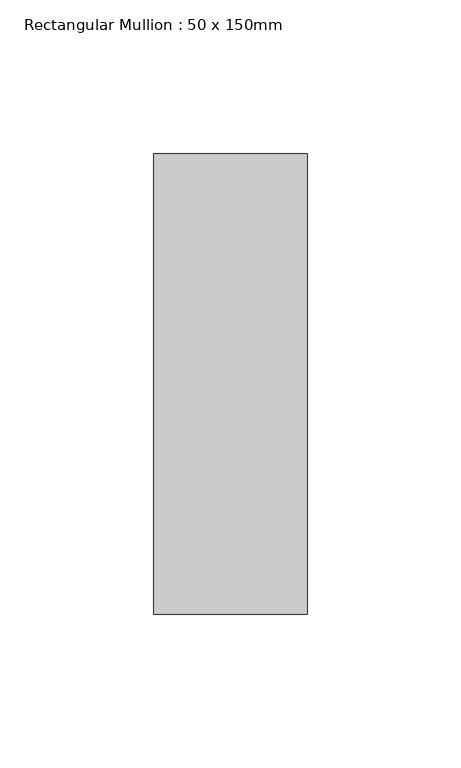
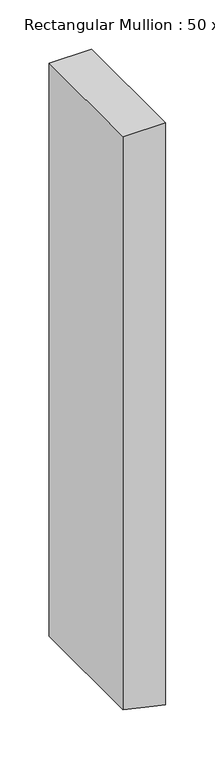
"""IFC4 building model written with IfcOpenShell, lengths in millimetres: member geometry, Rectangular Mullion : 50 x 150mm."""

import ifcopenshell
import ifcopenshell.guid

model = None  # the IFC model being written
_history = None  # IfcOwnerHistory: only IFC2X3 demands one
_inside = {}  # id of a spatial element -> (the spatial element, [elements in it])
_under = {}  # id of a project, library or spatial element -> (it, [spatial elements below it])
_declared = {}  # id of a project -> (the project, [libraries it declares])
_typed = {}  # id of a type object -> (the type object, [elements of that type])
_made_of = {}  # id of a material, layer set ... -> (it, [elements and type objects made of it])


def new_model(schema):
    """Start an empty IFC model of exactly this schema.

    Asked for "IFC4X3", IfcOpenShell would pick the latest addendum, in which some entities
    have other attributes; the version numbers below select the first issue.
    IFC2X3 requires an IfcOwnerHistory on every rooted entity: one is made here for all.
    """
    global model, _history
    if schema == "IFC4X3":
        model = ifcopenshell.file(schema_version=(4, 3, 0, 0))
    else:
        model = ifcopenshell.file(schema=schema)
    _inside.clear()
    _under.clear()
    _declared.clear()
    _typed.clear()
    _made_of.clear()
    _history = None
    if model.schema == "IFC2X3":
        org = make("IfcOrganization", Name="unknown")
        user = make(
            "IfcPersonAndOrganization",
            ThePerson=make("IfcPerson", FamilyName="unknown"),
            TheOrganization=org,
        )
        app = make(
            "IfcApplication",
            ApplicationDeveloper=org,
            Version="unknown",
            ApplicationFullName="unknown",
            ApplicationIdentifier="unknown",
        )
        _history = make(
            "IfcOwnerHistory",
            OwningUser=user,
            OwningApplication=app,
            ChangeAction="ADDED",
            CreationDate=0,
        )
    return model


def make(cls, **values):
    """One entity of the class cls with the attributes given. An attribute that is None is left unset."""
    return model.create_entity(
        cls, **{name: value for name, value in values.items() if value is not None}
    )


def rooted(cls, **values):
    """An entity with a GlobalId (a new one), such as an element, a storey or a relation."""
    return make(cls, GlobalId=ifcopenshell.guid.new(), OwnerHistory=_history, **values)


def si_unit(unit_type, name, prefix=None):
    """IfcSIUnit, for example si_unit("LENGTHUNIT", "METRE", prefix="MILLI")."""
    return make("IfcSIUnit", UnitType=unit_type, Prefix=prefix, Name=name)


def assignment(units):
    """IfcUnitAssignment: the units of a project."""
    return None if units is None else make("IfcUnitAssignment", Units=units)


def point(xyz):
    """IfcCartesianPoint."""
    return None if xyz is None else make("IfcCartesianPoint", Coordinates=xyz)


def direction(xyz):
    """IfcDirection."""
    return None if xyz is None else make("IfcDirection", DirectionRatios=xyz)


def frame(location, z_axis=None, x_axis=None):
    """IfcAxis2Placement3D, a coordinate frame: its origin and axes. An axis left out is left unset."""
    return make(
        "IfcAxis2Placement3D",
        Location=point(location),
        Axis=direction(z_axis),
        RefDirection=direction(x_axis),
    )


def origin():
    """The frame at (0, 0, 0) with its axes left unset."""
    return frame((0.0, 0.0, 0.0))


def place(relative_to, where):
    """IfcLocalPlacement: puts the frame where relative to a parent placement (None: the world)."""
    return make(
        "IfcLocalPlacement", PlacementRelTo=relative_to, RelativePlacement=where
    )


def context(
    kind, dimensions, precision=None, world=None, true_north=None, identifier=None
):
    """IfcGeometricRepresentationContext, for example the 3D "Model" context."""
    return make(
        "IfcGeometricRepresentationContext",
        ContextIdentifier=identifier,
        ContextType=kind,
        CoordinateSpaceDimension=dimensions,
        Precision=precision,
        WorldCoordinateSystem=world,
        TrueNorth=true_north,
    )


def project(units=None, contexts=None):
    """IfcProject with its units and contexts."""
    return rooted(
        "IfcProject",
        Name="project",
        RepresentationContexts=contexts,
        UnitsInContext=assignment(units),
    )


def spatial(cls, under=None, at=None, **own):
    """A site, building, storey or space (cls), placed at a placement, below another one or the project."""
    s = rooted(cls, ObjectPlacement=at, **own)
    if under is not None:
        _under.setdefault(under.id(), (under, []))[1].append(s)
    return s


def polyline(points):
    """IfcPolyline through the points."""
    return make("IfcPolyline", Points=[point(p) for p in points])


def outline(outer, holes=None, kind="AREA"):
    """IfcArbitraryClosedProfileDef: a profile drawn as a closed curve; with holes, ...WithVoids."""
    if holes is None:
        return make("IfcArbitraryClosedProfileDef", ProfileType=kind, OuterCurve=outer)
    return make(
        "IfcArbitraryProfileDefWithVoids",
        ProfileType=kind,
        OuterCurve=outer,
        InnerCurves=holes,
    )


def extrude(swept, where, along, depth):
    """IfcExtrudedAreaSolid: the profile swept, set in the frame where, extruded along a direction by depth."""
    return make(
        "IfcExtrudedAreaSolid",
        SweptArea=swept,
        Position=where,
        ExtrudedDirection=direction(along),
        Depth=depth,
    )


def shape(context_of_items, identifier, shape_type, items):
    """IfcShapeRepresentation: the items that make up one representation, for example the "Body"."""
    return make(
        "IfcShapeRepresentation",
        ContextOfItems=context_of_items,
        RepresentationIdentifier=identifier,
        RepresentationType=shape_type,
        Items=items,
    )


def source(mapping_origin, context_of_items, identifier, shape_type, items):
    """IfcRepresentationMap: a shape defined once, which mapped items show again and again."""
    return make(
        "IfcRepresentationMap",
        MappingOrigin=mapping_origin,
        MappedRepresentation=shape(context_of_items, identifier, shape_type, items),
    )


def transform(
    local_origin,
    x_axis=None,
    y_axis=None,
    z_axis=None,
    scale=None,
    scale2=None,
    scale3=None,
    uniform=True,
):
    """IfcCartesianTransformationOperator3D, or its non-uniform kind. x_axis, y_axis, z_axis: its Axis1, 2, 3."""
    if uniform:
        return make(
            "IfcCartesianTransformationOperator3D",
            Axis1=direction(x_axis),
            Axis2=direction(y_axis),
            LocalOrigin=point(local_origin),
            Scale=scale,
            Axis3=direction(z_axis),
        )
    return make(
        "IfcCartesianTransformationOperator3DnonUniform",
        Axis1=direction(x_axis),
        Axis2=direction(y_axis),
        LocalOrigin=point(local_origin),
        Scale=scale,
        Axis3=direction(z_axis),
        Scale2=scale2,
        Scale3=scale3,
    )


def mapped(mapping_source, mapping_target):
    """IfcMappedItem: shows the shape of a source again, moved by a transform."""
    return make(
        "IfcMappedItem", MappingSource=mapping_source, MappingTarget=mapping_target
    )


def made_of(thing, what):
    """Note that an element or type object is made of a material, layer set ...; save() writes the relation."""
    if what is not None:
        _made_of.setdefault(what.id(), (what, []))[1].append(thing)
    return thing


def element(
    cls,
    number,
    at=None,
    inside=None,
    cuts=None,
    type_object=None,
    material=None,
    context=None,
    identifier="Body",
    shape_type=None,
    held_by="IfcProductDefinitionShape",
    body=None,
    shapes=None,
    **own,
):
    """One element of the class cls, such as IfcWall. Its Tag is "e" and its number.

    at: its placement. inside: the storey or other place that contains it. cuts: it is an
    opening in that element (IfcRelVoidsElement). A single representation is given by context,
    identifier, shape_type and body (its items); several are given by shapes. held_by: the class
    of the entity that holds the representations. save() writes the other relations.
    """
    e = rooted(cls, Tag="e%d" % number, ObjectPlacement=at, **own)
    if body is not None:
        shapes = [shape(context, identifier, shape_type, body)]
    if shapes is not None:
        e.Representation = make(held_by, Representations=shapes)
    if inside is not None:
        _inside.setdefault(inside.id(), (inside, []))[1].append(e)
    if cuts is not None:
        rooted(
            "IfcRelVoidsElement", RelatingBuildingElement=cuts, RelatedOpeningElement=e
        )
    if type_object is not None:
        _typed.setdefault(type_object.id(), (type_object, []))[1].append(e)
    return made_of(e, material)


def aggregate(whole, parts):
    """IfcRelAggregates: a whole, such as a stair, and the parts it consists of."""
    return rooted("IfcRelAggregates", RelatingObject=whole, RelatedObjects=parts)


def save(model, path):
    """Write the relations noted so far, then the file.

    IfcRelAggregates (storeys below a building ...), IfcRelContainedInSpatialStructure (elements
    in a storey), IfcRelDefinesByType, IfcRelAssociatesMaterial and IfcRelDeclares: one each for
    every whole, place, type object, material and project.
    """
    for whole, parts in _under.values():
        aggregate(whole, parts)
    for where, things in _inside.values():
        rooted(
            "IfcRelContainedInSpatialStructure",
            RelatedElements=things,
            RelatingStructure=where,
        )
    for kind, things in _typed.values():
        rooted("IfcRelDefinesByType", RelatedObjects=things, RelatingType=kind)
    for what, things in _made_of.values():
        rooted("IfcRelAssociatesMaterial", RelatedObjects=things, RelatingMaterial=what)
    for by, libraries in _declared.values():
        rooted("IfcRelDeclares", RelatingContext=by, RelatedDefinitions=libraries)
    model.write(path)


def rectangular_mullion_50_x_150mm_6c63becf(model_context):
    return source(origin(), model_context, "Body", "SweptSolid", [
        extrude(outline(polyline([(0.0, 25.0), (0.0, -25.0), (-709.7099607, -25.0), (-717.8387927, 11.0099035), (-720.9969001, 25.0), (0.0, 25.0)])), frame((0.0, -75.0, 0.0), z_axis=(0.0, 1.0, 0.0), x_axis=(0.0, 0.0, 1.0)), (0.0, 0.0, 1.0), 150.0),
    ])


if __name__ == "__main__":
    model = new_model("IFC4")
    model_context = context("Model", 3, world=origin())
    ifc_project = project(units=[si_unit("LENGTHUNIT", "METRE", prefix="MILLI")], contexts=[model_context])
    site = spatial("IfcSite", under=ifc_project)
    building = spatial("IfcBuilding", under=site)
    placement = place(None, origin())
    rectangular_mullion_50_x_150mm_shape = rectangular_mullion_50_x_150mm_6c63becf(model_context)
    element("IfcMember", 1, ObjectType="Rectangular Mullion : 50 x 150mm", at=placement, inside=building, context=model_context, shape_type="MappedRepresentation", body=[
        mapped(rectangular_mullion_50_x_150mm_shape, transform((0.0, 0.0, 0.0), x_axis=(1.0, 0.0, 0.0), y_axis=(0.0, 1.0, 0.0), z_axis=(0.0, 0.0, 1.0))),
    ])
    save(model, "model.ifc")
